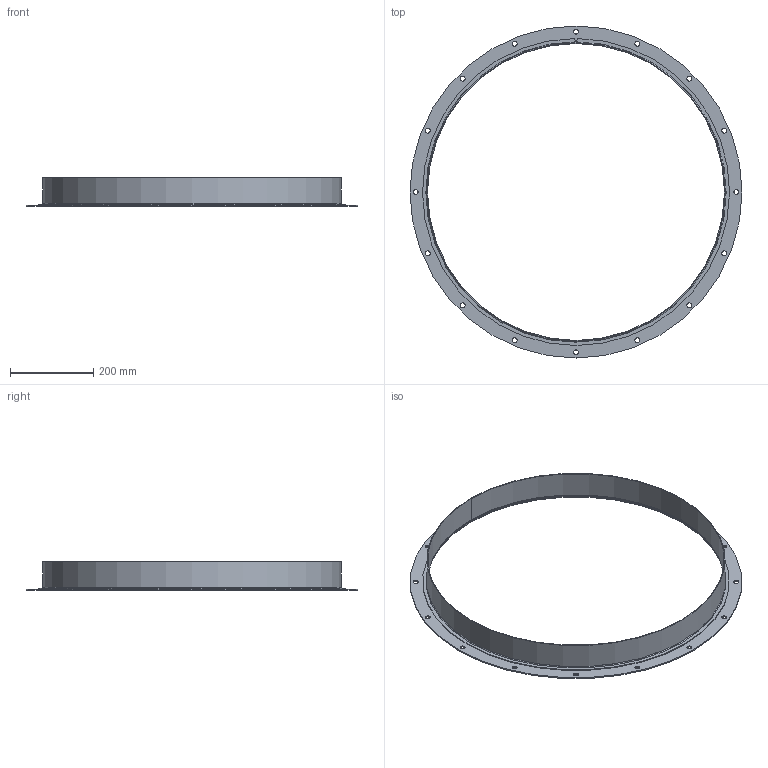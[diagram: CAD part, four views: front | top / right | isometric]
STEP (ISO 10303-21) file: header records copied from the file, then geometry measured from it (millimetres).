
FILE_DESCRIPTION(/* description */ ('Stub K-1100'),/* implementation_level */ '2;1');
FILE_NAME(/* name */ 'Y:\VaultRobocze\Designs\2\0\02\900 290\2 002 900 290.stp',/* time_stamp */ '2018-03-30T10:47:08+02:00',/* author */ ('TomaszCie'),/* organization */ (''),/* preprocessor_version */ 'ST-DEVELOPER v16.13',/* originating_system */ 'Autodesk Inventor 2018',/* authorisation */ '');
FILE_SCHEMA (('AUTOMOTIVE_DESIGN { 1 0 10303 214 3 1 1 }'));
Length unit declared in the file: millimetre
Products named in the file (3): 2 002 900 290; 2 002 900 291; 2 002 900 292
Assembly tree (2 placements, depth 2):
  2 002 900 290
    2 002 900 291
    2 002 900 292
Bounding box: 797 x 797 x 69 mm (x, y, z)
Volume: 623019.2 mm3; surface area: 552911.9 mm2
Topology: 2 solids, 2 shells, 32 faces, 82 edges, 54 vertices
Faces by surface type: cylinder 21, plane 9, torus 2
Full cylindrical faces by diameter (mm): 12 x16, 713 x1, 715 x1, 717 x1, 797 x1
Entity records: 1088 total; most frequent: DIRECTION 188, CARTESIAN_POINT 155, ORIENTED_EDGE 128, AXIS2_PLACEMENT_3D 87, EDGE_LOOP 84, EDGE_CURVE 64, VERTEX_POINT 54, FACE_BOUND 52
